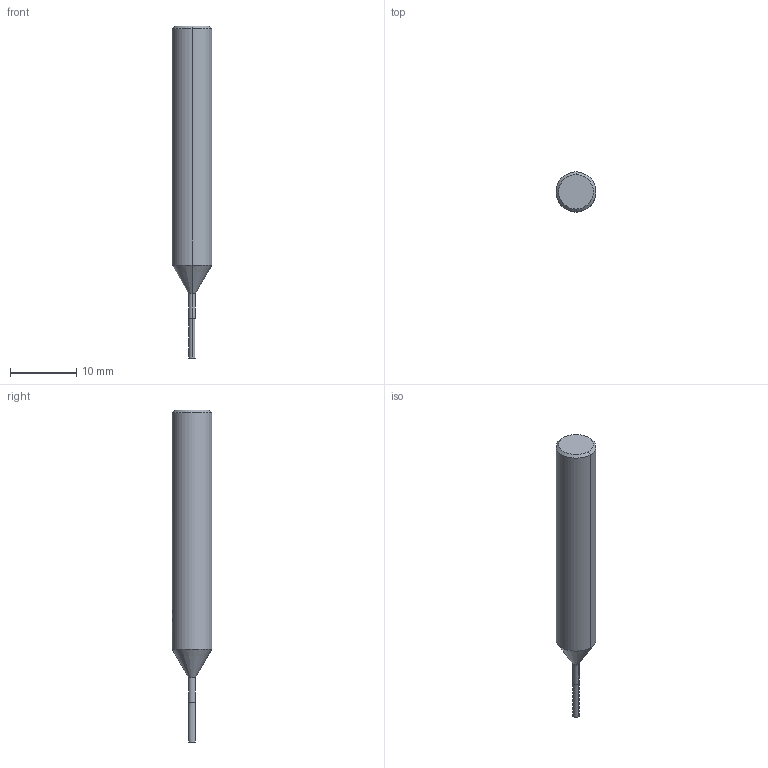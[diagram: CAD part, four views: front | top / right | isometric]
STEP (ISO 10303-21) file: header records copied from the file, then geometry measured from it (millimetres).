
FILE_DESCRIPTION(('no description'),'unknown implementation level');
FILE_NAME('solidZltOBa4OWoykNzs9zX1Ugfpz7Nc_1.STP',' ',('CIMSOURCE GmbH'),('CADClick - KiM GmbH - www.kimweb.de'),'unknown preprocess','ACIS','unknown authorization');
FILE_SCHEMA(('automotive_design'));
Length unit declared in the file: millimetre
Products named in the file (2): NOCUT; CUT
Bounding box: 6 x 6 x 50 mm (x, y, z)
Volume: 1072.6 mm3; surface area: 791 mm2
Topology: 2 solids, 2 shells, 28 faces, 65 edges, 42 vertices
Faces by surface type: cylinder 12, plane 10, cone 6
Entity records: 1810 total; most frequent: CARTESIAN_POINT 357, DIRECTION 141, STYLED_ITEM 137, PRESENTATION_STYLE_ASSIGNMENT 137, COLOUR_RGB 137, ORIENTED_EDGE 130, EDGE_CURVE 65, CURVE_STYLE 65
